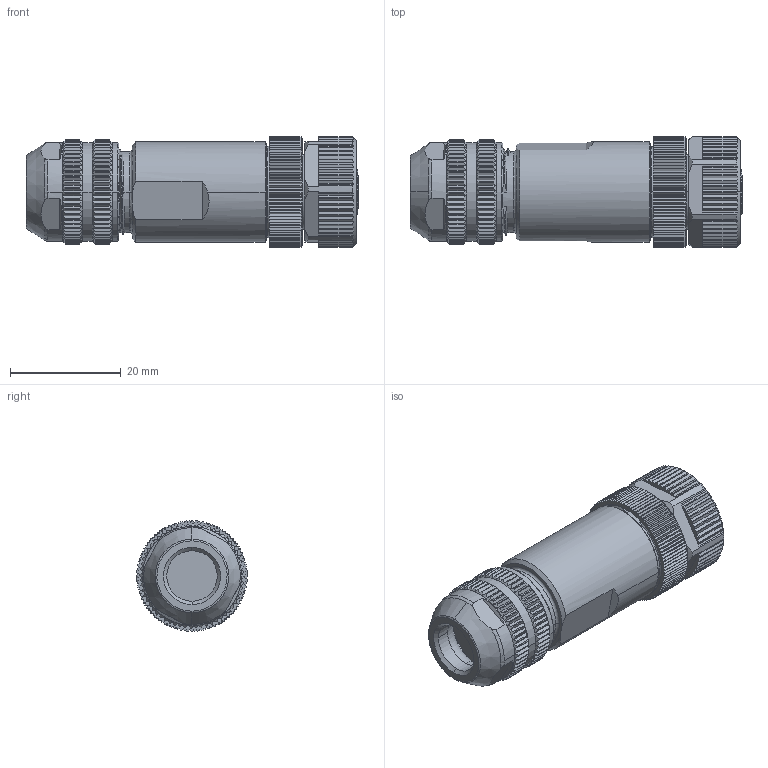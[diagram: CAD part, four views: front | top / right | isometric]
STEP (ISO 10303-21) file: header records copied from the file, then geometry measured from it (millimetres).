
FILE_DESCRIPTION (( 'STEP AP203' ), '1' );
FILE_NAME ('64F541.STEP', '2023-04-04T03:29:53', ( '' ), ( '' ), 'SwSTEP 2.0', 'SolidWorks 2016', '' );
FILE_SCHEMA (( 'CONFIG_CONTROL_DESIGN' ));
Length unit declared in the file: millimetre
Products named in the file (1): 64F541
Bounding box: 60 x 20 x 20 mm (x, y, z)
Volume: 13036.6 mm3; surface area: 8390.5 mm2
Topology: 2 solids, 7 shells, 1449 faces, 4364 edges, 2955 vertices
Faces by surface type: plane 717, cylinder 451, cone 209, bspline 61, torus 11
Entity records: 105942 total; most frequent: CARTESIAN_POINT 69531, ORIENTED_EDGE 8704, DIRECTION 6136, EDGE_CURVE 4352, VERTEX_POINT 2955, AXIS2_PLACEMENT_3D 2192, B_SPLINE_CURVE_WITH_KNOTS 1788, VECTOR 1752
